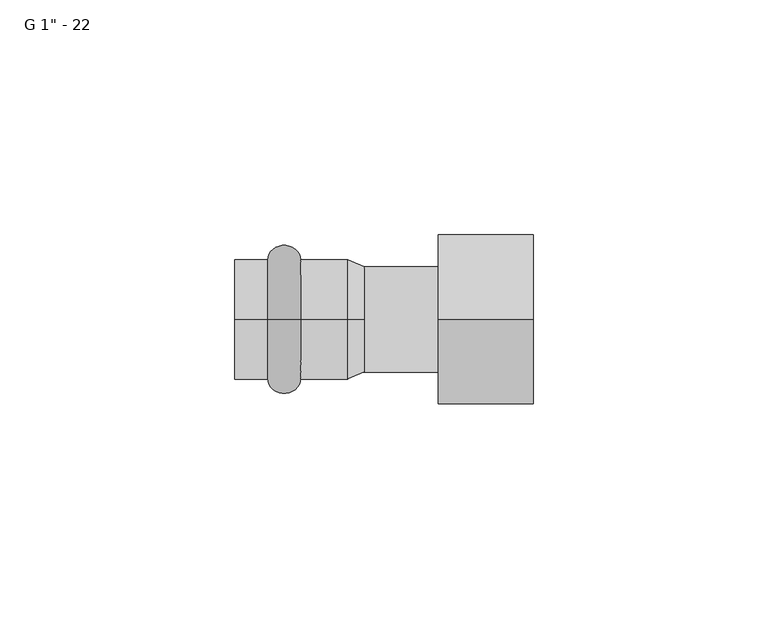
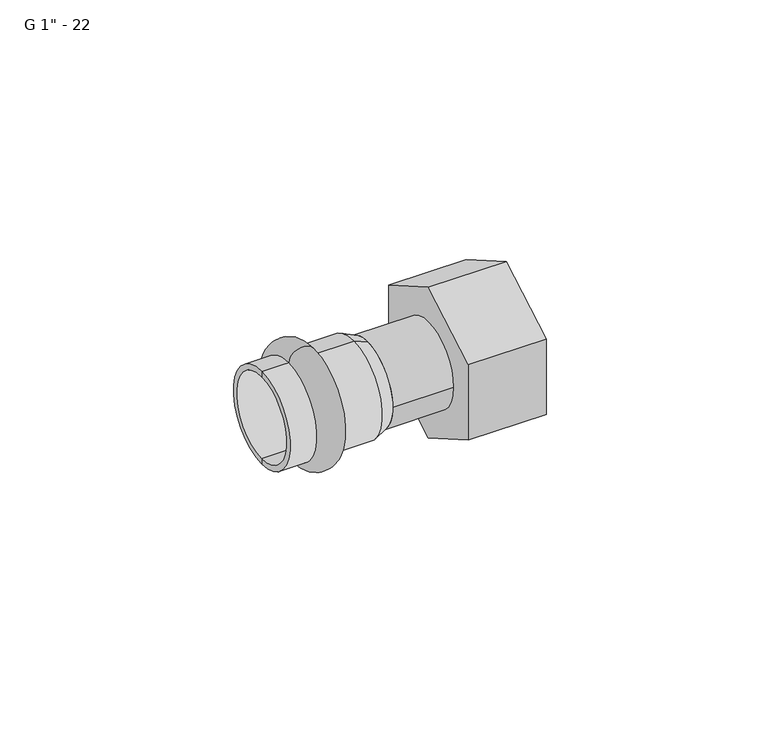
"""IFC4 building model written with IfcOpenShell, lengths in millimetres: pipe fitting geometry."""

from ifc_helpers import new_model, si_unit, point, frame, origin, origin_2d, place, context, project, spatial, polyline, circle_curve, ellipse_curve, trimmed, segment, composite_curve, outline, extrude, source, transform, mapped, element, save
from ifc_brep_helpers import plane_surface, cylinder_surface, revolved_surface, advanced_brep


def pipe_fitting_ccd35f00(model_context):
    return source(origin(), model_context, "Body", "SolidModel", [
        advanced_brep(
        [(-17.0, 0.0, 12.75), (-17.0, 0.0, -12.75), (-10.0, 0.0, -12.75), (-10.0, 0.0, 12.75)],
        [
            (0, 1, circle_curve(frame((-17.0, 0.0, 0.0), z_axis=(-1.0, 0.0, 0.0), x_axis=(0.0, 0.0, -1.0)), 12.75)),
            (1, 2),
            (2, 3, circle_curve(frame((-10.0, 0.0, 0.0), z_axis=(1.0, 0.0, 0.0), x_axis=(0.0, 0.0, -1.0)), 12.75)),
            (3, 0),
            (1, 0, circle_curve(frame((-17.0, 0.0, 0.0), z_axis=(-1.0, 0.0, 0.0), x_axis=(0.0, 0.0, -1.0)), 12.75)),
            (3, 2, circle_curve(frame((-10.0, 0.0, 0.0), z_axis=(1.0, 0.0, 0.0), x_axis=(0.0, 0.0, -1.0)), 12.75)),
            (2, 1, ellipse_curve(frame((-13.5, 0.0, -12.75), z_axis=(0.0, 1.0, 0.0), x_axis=(-1.0, 0.0, 0.0)), 3.5, 3.1)),
            (0, 3, ellipse_curve(frame((-13.5, 0.0, 12.75), z_axis=(0.0, 1.0, 0.0), x_axis=(-1.0, 0.0, 0.0)), 3.5, 3.1)),
        ],
        [
            revolved_surface(polyline([(-10.0, 0.0, -12.75), (-17.0, 0.0, -12.75)]), (3.0, 0.0, 0.0), (1.0, 0.0, 0.0)),
            revolved_surface(trimmed(ellipse_curve(frame((-13.5, 0.0, -12.75), z_axis=(0.0, -1.0, 0.0), x_axis=(-1.0, 0.0, 0.0)), 3.5, 3.1), [point((-17.0, 0.0, -12.75))], [point((-10.0, 0.0, -12.75))], True, "CARTESIAN"), (3.0, 0.0, 0.0), (1.0, 0.0, 0.0)),
        ],
        [
            (0, [[1, 2, 3, 4]]),
            (0, [[5, -4, 6, -2]]),
            (1, [[-3, 7, -1, 8]]),
            (1, [[-6, -8, -5, -7]]),
        ],
    ),
        advanced_brep(
        [(3.5337785, 0.0, 11.25), (3.5337785, 0.0, -11.25), (0.0, 0.0, -12.75), (0.0, 0.0, 12.75), (-24.0, 0.0, 11.25), (-24.0, 0.0, -11.25), (-24.0, 0.0, 12.75), (-24.0, 0.0, -12.75)],
        [
            (0, 1, circle_curve(frame((3.5337785, 0.0, 0.0), z_axis=(-1.0, 0.0, 0.0), x_axis=(0.0, 0.0, -1.0)), 11.25)),
            (1, 2),
            (2, 3, circle_curve(frame((0.0, 0.0, 0.0), z_axis=(1.0, 0.0, 0.0), x_axis=(0.0, 0.0, -1.0)), 12.75)),
            (3, 0),
            (1, 0, circle_curve(frame((3.5337785, 0.0, 0.0), z_axis=(-1.0, 0.0, 0.0), x_axis=(0.0, 0.0, -1.0)), 11.25)),
            (3, 2, circle_curve(frame((0.0, 0.0, 0.0), z_axis=(1.0, 0.0, 0.0), x_axis=(0.0, 0.0, -1.0)), 12.75)),
            (4, 5, circle_curve(frame((-24.0, 0.0, 0.0), z_axis=(-1.0, 0.0, 0.0), x_axis=(0.0, 0.0, -1.0)), 11.25)),
            (5, 1),
            (0, 4),
            (5, 4, circle_curve(frame((-24.0, 0.0, 0.0), z_axis=(-1.0, 0.0, 0.0), x_axis=(0.0, 0.0, -1.0)), 11.25)),
            (6, 7, circle_curve(frame((-24.0, 0.0, 0.0), z_axis=(-1.0, 0.0, 0.0), x_axis=(0.0, 0.0, -1.0)), 12.75)),
            (7, 5),
            (4, 6),
            (7, 6, circle_curve(frame((-24.0, 0.0, 0.0), z_axis=(-1.0, 0.0, 0.0), x_axis=(0.0, 0.0, -1.0)), 12.75)),
            (2, 7),
            (6, 3),
        ],
        [
            revolved_surface(polyline([(0.0, 0.0, -12.75), (3.5337785, 0.0, -11.25)]), (3.0, 0.0, 0.0), (1.0, 0.0, 0.0)),
            revolved_surface(polyline([(3.5337785, 0.0, -11.25), (-24.0, 0.0, -11.25)]), (3.0, 0.0, 0.0), (1.0, 0.0, 0.0)),
            plane_surface(frame((-24.0, 0.0, 0.0), z_axis=(-1.0, 0.0, 0.0), x_axis=(0.0, 0.0, -1.0))),
            cylinder_surface(frame((3.0, 0.0, 0.0), z_axis=(1.0, 0.0, 0.0), x_axis=(0.0, 0.0, -1.0)), 12.75),
        ],
        [
            (0, [[1, 2, 3, 4]]),
            (0, [[5, -4, 6, -2]]),
            (1, [[7, 8, -1, 9]]),
            (1, [[10, -9, -5, -8]]),
            (2, [[11, 12, -7, 13]]),
            (2, [[14, -13, -10, -12]]),
            (3, [[-3, 15, -11, 16]]),
            (3, [[-6, -16, -14, -15]]),
        ],
    ),
        extrude(outline(composite_curve([segment(trimmed(circle_curve(origin_2d(), 11.25), [point((-11.25, 0.0))], [point((11.25, 0.0))], False, "CARTESIAN"), True, "CONTINUOUS"), segment(trimmed(circle_curve(origin_2d(), 11.25), [point((11.25, 0.0))], [point((-11.25, 0.0))], False, "CARTESIAN"), True, "CONTINUOUS")], self_intersect=False)), frame((3.5337785, 0.0, 0.0), z_axis=(1.0, 0.0, 0.0), x_axis=(0.0, 1.0, 0.0)), (0.0, 0.0, 1.0), 15.8),
        advanced_brep(
        [(39.5337785, -18.0, -10.3923048), (19.3337785, -18.0, -10.3923048), (19.3337785, 0.0, -20.7846097), (39.5337785, 0.0, -20.7846097), (19.3337785, 18.0, -10.3923048), (39.5337785, 18.0, -10.3923048), (39.5337785, 18.0, 10.3923048), (19.3337785, 18.0, 10.3923048), (19.3337785, 0.0, 20.7846097), (39.5337785, 0.0, 20.7846097), (19.3337785, -18.0, 10.3923048), (39.5337785, -18.0, 10.3923048), (39.5337785, -16.75, 0.0), (39.5337785, 16.75, 0.0), (19.3337785, -8.0, -4.6188022), (19.3337785, 0.0, -9.2376043), (19.3337785, 8.0, -4.6188022), (19.3337785, 8.0, 4.6188022), (19.3337785, 0.0, 9.2376043), (19.3337785, -8.0, 4.6188022), (24.1337785, -16.75, 0.0), (24.1337785, 16.75, 0.0), (24.1337785, 0.0, -9.2376043), (24.1337785, -8.0, -4.6188022), (24.1337785, -8.0, 4.6188022), (24.1337785, 0.0, 9.2376043), (24.1337785, 8.0, 4.6188022), (24.1337785, 8.0, -4.6188022)],
        [
            (0, 1),
            (1, 2),
            (2, 3),
            (3, 0),
            (2, 4),
            (4, 5),
            (5, 3),
            (6, 7),
            (7, 8),
            (8, 9),
            (9, 6),
            (8, 10),
            (10, 11),
            (11, 9),
            (4, 7),
            (6, 5),
            (11, 0),
            (12, 13, circle_curve(frame((39.5337785, 0.0, 0.0), z_axis=(-1.0, 0.0, 0.0), x_axis=(0.0, 1.0, 0.0)), 16.75)),
            (13, 12, circle_curve(frame((39.5337785, 0.0, 0.0), z_axis=(-1.0, 0.0, 0.0), x_axis=(0.0, 1.0, 0.0)), 16.75)),
            (1, 10),
            (14, 15),
            (15, 16),
            (16, 17),
            (17, 18),
            (18, 19),
            (19, 14),
            (20, 21, circle_curve(frame((24.1337785, 0.0, 0.0), z_axis=(1.0, 0.0, 0.0), x_axis=(0.0, 1.0, 0.0)), 16.75)),
            (21, 20, circle_curve(frame((24.1337785, 0.0, 0.0), z_axis=(1.0, 0.0, 0.0), x_axis=(0.0, 1.0, 0.0)), 16.75)),
            (22, 23),
            (23, 24),
            (24, 25),
            (25, 26),
            (26, 27),
            (27, 22),
            (21, 13),
            (12, 20),
            (14, 23),
            (22, 15),
            (27, 16),
            (17, 26),
            (25, 18),
            (24, 19),
        ],
        [
            plane_surface(frame((19.3337785, -18.0, -10.3923048), z_axis=(0.0, -0.5000000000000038, -0.8660254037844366), x_axis=(0.0, 0.8660254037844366, -0.5000000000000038))),
            plane_surface(frame((19.3337785, 0.0, -20.7846097), z_axis=(0.0, 0.4999999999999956, -0.8660254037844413), x_axis=(0.0, 0.8660254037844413, 0.4999999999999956))),
            plane_surface(frame((19.3337785, 18.0, 10.3923048), z_axis=(0.0, 0.5000000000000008, 0.8660254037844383), x_axis=(0.0, -0.8660254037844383, 0.5000000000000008))),
            plane_surface(frame((19.3337785, 0.0, 20.7846097), z_axis=(0.0, -0.4999999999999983, 0.8660254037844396), x_axis=(0.0, -0.8660254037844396, -0.4999999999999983))),
            plane_surface(frame((19.3337785, 18.0, -10.3923048), z_axis=(0.0, 1.0, 0.0), x_axis=(0.0, 0.0, 1.0))),
            plane_surface(frame((39.5337785, -18.0, 10.3923048), z_axis=(1.0, 0.0, 0.0), x_axis=(0.0, 0.0, -1.0))),
            plane_surface(frame((19.3337785, -8.0, 4.6188022), z_axis=(-1.0, 0.0, 0.0), x_axis=(0.0, 0.0, -1.0))),
            plane_surface(frame((19.3337785, -18.0, 10.3923048), z_axis=(0.0, -1.0, 0.0), x_axis=(0.0, 0.0, -1.0))),
            plane_surface(frame((24.1337785, 16.75, 0.0), z_axis=(1.0, 0.0, 0.0), x_axis=(0.0, 0.0, -1.0))),
            revolved_surface(polyline([(39.5337785, 16.75, 0.0), (24.1337785, 16.75, 0.0)]), (24.1337785, 0.0, 0.0), (1.0, 0.0, 0.0)),
            plane_surface(frame((39.5337785, -8.0, -4.6188022), z_axis=(0.0, 0.500000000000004, 0.8660254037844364), x_axis=(0.0, 0.8660254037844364, -0.500000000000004))),
            plane_surface(frame((39.5337785, 0.0, -9.2376043), z_axis=(0.0, -0.4999999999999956, 0.8660254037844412), x_axis=(0.0, 0.8660254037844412, 0.4999999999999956))),
            plane_surface(frame((39.5337785, 8.0, 4.6188022), z_axis=(0.0, -0.5000000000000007, -0.8660254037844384), x_axis=(0.0, -0.8660254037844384, 0.5000000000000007))),
            plane_surface(frame((39.5337785, 0.0, 9.2376043), z_axis=(0.0, 0.4999999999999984, -0.8660254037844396), x_axis=(0.0, -0.8660254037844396, -0.4999999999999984))),
            plane_surface(frame((39.5337785, 8.0, -4.6188022), z_axis=(0.0, -1.0, 0.0), x_axis=(0.0, 0.0, 1.0))),
            plane_surface(frame((39.5337785, -8.0, 4.6188022), z_axis=(0.0, 1.0, 0.0), x_axis=(0.0, 0.0, -1.0))),
        ],
        [
            (0, [[1, 2, 3, 4]]),
            (1, [[-3, 5, 6, 7]]),
            (2, [[8, 9, 10, 11]]),
            (3, [[-10, 12, 13, 14]]),
            (4, [[-6, 15, -8, 16]]),
            (5, [[-4, -7, -16, -11, -14, 17], [18, 19]]),
            (6, [[-2, 20, -12, -9, -15, -5], [21, 22, 23, 24, 25, 26]]),
            (7, [[-1, -17, -13, -20]]),
            (8, [[27, 28], [29, 30, 31, 32, 33, 34]]),
            (9, [[-28, 35, -18, 36]]),
            (9, [[-27, -36, -19, -35]]),
            (10, [[-21, 37, -29, 38]]),
            (11, [[-22, -38, -34, 39]]),
            (12, [[-24, 40, -32, 41]]),
            (13, [[-25, -41, -31, 42]]),
            (14, [[-23, -39, -33, -40]]),
            (15, [[-26, -42, -30, -37]]),
        ],
    ),
    ])


if __name__ == "__main__":
    model = new_model("IFC4")
    model_context = context("Model", 3, world=origin())
    ifc_project = project(units=[si_unit("LENGTHUNIT", "METRE", prefix="MILLI")], contexts=[model_context])
    site = spatial("IfcSite", under=ifc_project)
    building = spatial("IfcBuilding", under=site)
    placement = place(None, origin())
    pipe_fitting_shape = pipe_fitting_ccd35f00(model_context)
    element("IfcPipeFitting", 1, ObjectType="РЕХАУ_Пресс Муфта с накидной гайкой : G 1\" - 22", at=placement, inside=building, context=model_context, shape_type="MappedRepresentation", body=[
        mapped(pipe_fitting_shape, transform((0.0, 0.0, 0.0), x_axis=(1.0, 0.0, 0.0), y_axis=(0.0, 1.0, 0.0), z_axis=(0.0, 0.0, 1.0))),
    ])
    save(model, "model.ifc")
